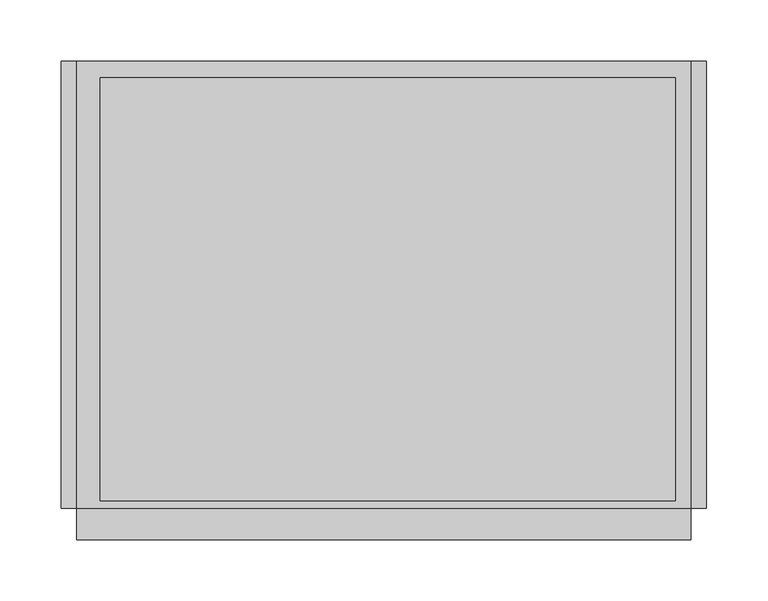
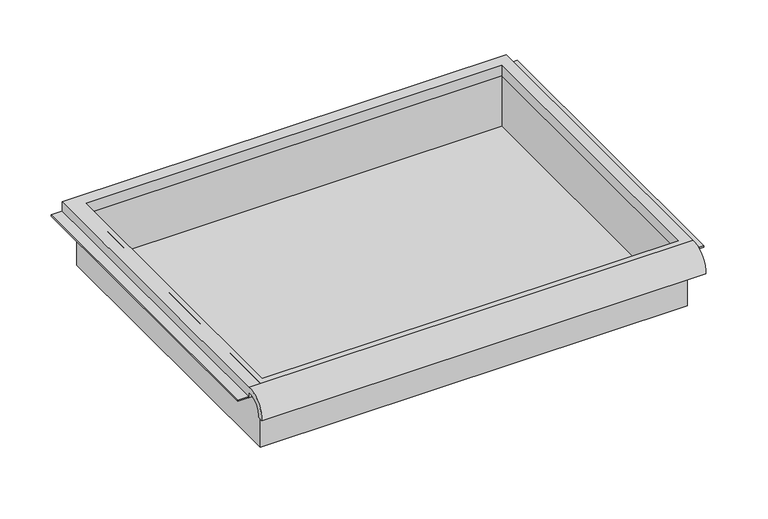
"""IFC4 building model written with IfcOpenShell, lengths in millimetres: furniture geometry."""

from ifc_helpers import new_model, si_unit, frame, origin, place, context, project, spatial, polyline, circle_curve, faceted_brep, source, transform, mapped, element, save
from ifc_brep_helpers import plane_surface, cylinder_surface, revolved_surface, advanced_brep


def furniture_b08edb2a(model_context):
    return source(origin(), model_context, "Body", "SolidModel", [
        advanced_brep(
        [(263.7474999, -195.297482, 1847.0510272), (263.7474999, -188.9125, 1847.0510272), (263.7474999, -169.8625, 1865.3125004), (263.7474999, -169.8625, 1858.9625), (263.7474999, 195.2625, 1858.9625), (263.7474999, 195.2625, 1871.6625004), (263.7474999, -169.8625, 1871.6625004), (-237.9025001, -195.297482, 1847.0510272), (-237.9025001, -169.8625, 1871.6625004), (-237.9025001, 195.2625, 1871.6625004), (-237.9025001, 195.2625, 1858.9625), (-237.9025001, -169.8625, 1858.9625), (-237.9025001, -169.8625, 1865.3125004), (-237.9025001, -188.9125, 1847.0510272), (251.0474878, 181.9275, 1858.9625), (-218.8095642, 181.9275, 1858.9625), (-218.8095642, -163.5125, 1858.9625), (251.0474878, -163.5125, 1858.9625), (-218.8095642, 181.9275, 1871.6625004), (251.0474878, 181.9275, 1871.6625004), (251.0474878, -163.5125, 1871.6625004), (-218.8095642, -163.5125, 1871.6625004)],
        [
            (0, 1),
            (1, 2, circle_curve(frame((263.7474999, -172.3404634, 1848.8304376), z_axis=(-1.0, 0.0, 0.0), x_axis=(0.0, 1.0, 0.0)), 16.6672942)),
            (2, 3),
            (3, 4),
            (4, 5),
            (5, 6),
            (6, 0, circle_curve(frame((263.7474999, -172.4601678, 1848.8983276), z_axis=(1.0, 0.0, 0.0), x_axis=(0.0, 1.0, 0.0)), 22.9119061)),
            (7, 8, circle_curve(frame((-237.9025001, -172.4601678, 1848.8983276), z_axis=(-1.0, 0.0, 0.0), x_axis=(0.0, 1.0, 0.0)), 22.9119061)),
            (8, 9),
            (9, 10),
            (10, 11),
            (11, 12),
            (12, 13, circle_curve(frame((-237.9025001, -172.3404634, 1848.8304376), z_axis=(1.0, 0.0, 0.0), x_axis=(0.0, 1.0, 0.0)), 16.6672942)),
            (13, 7),
            (0, 7),
            (13, 1),
            (12, 2),
            (11, 3),
            (10, 4),
            (14, 15),
            (15, 16),
            (16, 17),
            (17, 14),
            (9, 5),
            (8, 6),
            (18, 19),
            (19, 20),
            (20, 21),
            (21, 18),
            (14, 19),
            (18, 15),
            (21, 16),
            (20, 17),
        ],
        [
            plane_surface(frame((263.7474999, -195.297482, 1847.0510272), z_axis=(1.0, 0.0, 0.0), x_axis=(0.0, 1.0, 0.0))),
            plane_surface(frame((-237.9025001, -195.297482, 1847.0510272), z_axis=(-1.0, 0.0, 0.0), x_axis=(0.0, -1.0, 0.0))),
            plane_surface(frame((263.7474999, -195.297482, 1847.0510272), z_axis=(0.0, 0.0, -1.0), x_axis=(-1.0, 0.0, 0.0))),
            revolved_surface(polyline([(-237.9025001, -155.67316920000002, 1848.8304376), (263.7474999, -155.67316920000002, 1848.8304376)]), (-237.9025001, -172.3404634, 1848.8304376), (-1.0, 0.0, 0.0)),
            plane_surface(frame((263.7474999, -169.8625, 1865.3125004), z_axis=(0.0, -1.0, 0.0), x_axis=(-1.0, 0.0, 0.0))),
            plane_surface(frame((263.7474999, -169.8625, 1858.9625), z_axis=(0.0, 0.0, -1.0), x_axis=(-1.0, 0.0, 0.0))),
            plane_surface(frame((263.7474999, 195.2625, 1858.9625), z_axis=(0.0, 1.0, 0.0), x_axis=(-1.0, 0.0, 0.0))),
            plane_surface(frame((263.7474999, 195.2625, 1871.6625004), z_axis=(0.0, 0.0, 1.0), x_axis=(-1.0, 0.0, 0.0))),
            cylinder_surface(frame((-237.9025001, -172.4601678, 1848.8983276), z_axis=(1.0, 0.0, 0.0), x_axis=(0.0, 1.0, 0.0)), 22.9119061),
            plane_surface(frame((251.0474878, 181.9275, 1871.6625004), z_axis=(0.0, -1.0, 0.0), x_axis=(0.0, 0.0, -1.0))),
            plane_surface(frame((-218.8095642, 181.9275, 1871.6625004), z_axis=(1.0, 0.0, 0.0), x_axis=(0.0, 0.0, -1.0))),
            plane_surface(frame((-218.8095642, -163.5125, 1871.6625004), z_axis=(0.0, 1.0, 0.0), x_axis=(0.0, 0.0, -1.0))),
            plane_surface(frame((251.0474878, -163.5125, 1871.6625004), z_axis=(-1.0, 0.0, 0.0), x_axis=(0.0, 0.0, -1.0))),
        ],
        [
            (0, [[1, 2, 3, 4, 5, 6, 7]]),
            (1, [[8, 9, 10, 11, 12, 13, 14]]),
            (2, [[-1, 15, -14, 16]]),
            (3, [[-2, -16, -13, 17]]),
            (4, [[-3, -17, -12, 18]]),
            (5, [[-4, -18, -11, 19], [20, 21, 22, 23]]),
            (6, [[-5, -19, -10, 24]]),
            (7, [[-6, -24, -9, 25], [26, 27, 28, 29]]),
            (8, [[-7, -25, -8, -15]]),
            (9, [[30, -26, 31, -20]]),
            (10, [[-31, -29, 32, -21]]),
            (11, [[-32, -28, 33, -22]]),
            (12, [[-30, -23, -33, -27]]),
        ],
    ),
        faceted_brep([(-225.2025001, -169.8625, 1795.4625004), (257.3974878, -169.8625, 1795.4625004), (257.3974878, -169.8625, 1871.6625004), (-225.2025001, -169.8625, 1871.6625004), (-225.2025001, 188.9125, 1795.4625004), (-225.2025001, 188.9125, 1871.6625004), (257.3974878, 188.9125, 1871.6625004), (257.3974878, 188.9125, 1795.4625004), (-218.8095642, 181.9275, 1871.6625004), (251.0474878, 181.9275, 1871.6625004), (251.0474878, -163.5125, 1871.6625004), (-218.8095642, -163.5125, 1871.6625004), (251.0474878, 181.9275, 1798.6375004), (-218.8095642, 181.9275, 1798.6375004), (-218.8095642, -163.5125, 1798.6375004), (251.0474878, -163.5125, 1798.6375004)], [[[0, 1, 2, 3]], [[4, 5, 6, 7]], [[1, 0, 4, 7]], [[2, 1, 7, 6]], [[3, 2, 6, 5], [8, 9, 10, 11]], [[0, 3, 5, 4]], [[12, 13, 14, 15]], [[13, 12, 9, 8]], [[14, 13, 8, 11]], [[15, 14, 11, 10]], [[12, 15, 10, 9]]]),
        faceted_brep([(-250.6025001, 195.2625, 1858.9625), (-250.6025001, 195.2625, 1860.55), (-231.5525001, 195.2625, 1860.55), (-231.5525001, 195.2625, 1858.9625), (-250.6025001, -169.8625, 1858.9625), (-231.5525001, -169.8625, 1858.9625), (-231.5525001, -169.8625, 1860.55), (-250.6025001, -169.8625, 1860.55)], [[[0, 1, 2, 3]], [[4, 5, 6, 7]], [[1, 0, 4, 7]], [[2, 1, 7, 6]], [[3, 2, 6, 5]], [[0, 3, 5, 4]]]),
        faceted_brep([(276.4474999, 195.2625, 1858.9625), (263.7474999, 195.2625, 1858.9625), (263.7474999, 195.2625, 1860.55), (276.4474999, 195.2625, 1860.55), (276.4474999, -169.8625, 1858.9625), (276.4474999, -169.8625, 1860.55), (263.7474999, -169.8625, 1860.55), (263.7474999, -169.8625, 1858.9625)], [[[0, 1, 2, 3]], [[4, 5, 6, 7]], [[1, 0, 4, 7]], [[2, 1, 7, 6]], [[3, 2, 6, 5]], [[0, 3, 5, 4]]]),
    ])


if __name__ == "__main__":
    model = new_model("IFC4")
    model_context = context("Model", 3, world=origin())
    ifc_project = project(units=[si_unit("LENGTHUNIT", "METRE", prefix="MILLI")], contexts=[model_context])
    site = spatial("IfcSite", under=ifc_project)
    building = spatial("IfcBuilding", under=site)
    placement = place(None, origin())
    furniture_shape = furniture_b08edb2a(model_context)
    element("IfcFurniture", 1, ObjectType="HermanMiller_Carts_CT501_Drawer : 3\"H x 15\"D x 20\"W", at=placement, inside=building, context=model_context, shape_type="MappedRepresentation", body=[
        mapped(furniture_shape, transform((0.0, 0.0, 0.0), x_axis=(1.0, 0.0, 0.0), y_axis=(0.0, 1.0, 0.0), z_axis=(0.0, 0.0, 1.0))),
    ])
    save(model, "model.ifc")
